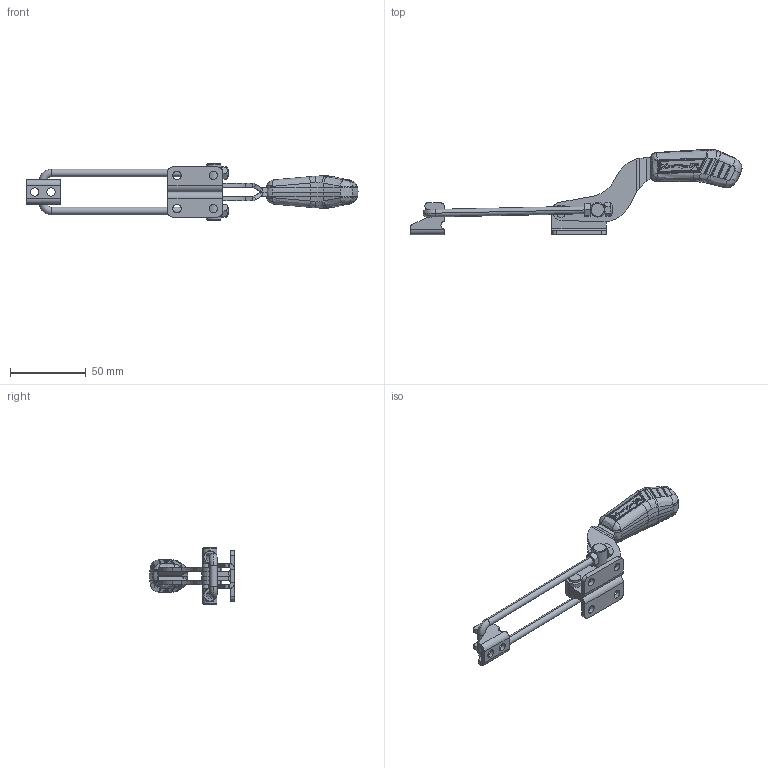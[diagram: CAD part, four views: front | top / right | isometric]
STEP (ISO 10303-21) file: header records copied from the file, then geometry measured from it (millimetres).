
FILE_DESCRIPTION (( 'STEP AP203' ), '1' );
FILE_NAME ('KF-643 DL.STEP', '2017-10-05T12:05:31', ( 'Ricardo' ), ( '' ), 'SwSTEP 2.0', 'SolidWorks 2015', '' );
FILE_SCHEMA (( 'CONFIG_CONTROL_DESIGN' ));
Length unit declared in the file: millimetre
Products named in the file (12): 11.50005; 11.50013; 02.12039_Direita; 07.60005; 02.12039_Esquerda; 06.50023; 01.10048_Direita; KF-643 DL; 01.10048_Esquerda; 16.20034; 03.20067; 15.10026
Assembly tree (13 placements, depth 2):
  KF-643 DL
    02.12039_Direita
    02.12039_Esquerda
    01.10048_Direita
    01.10048_Esquerda
    16.20034
    03.20067
    15.10026
    11.50005  x2
    11.50013  x2
    07.60005
    06.50023
Bounding box: 219.11 x 56.33 x 37 mm (x, y, z)
Volume: 41554.9 mm3; surface area: 28915.6 mm2
Topology: 13 solids, 13 shells, 924 faces, 2342 edges, 1454 vertices
Faces by surface type: cylinder 284, bspline 279, plane 237, cone 66, sphere 50, torus 8
Entity records: 34706 total; most frequent: CARTESIAN_POINT 14917, ORIENTED_EDGE 4448, DIRECTION 3066, EDGE_CURVE 2224, VERTEX_POINT 1387, AXIS2_PLACEMENT_3D 1158, EDGE_LOOP 927, ADVANCED_FACE 875
